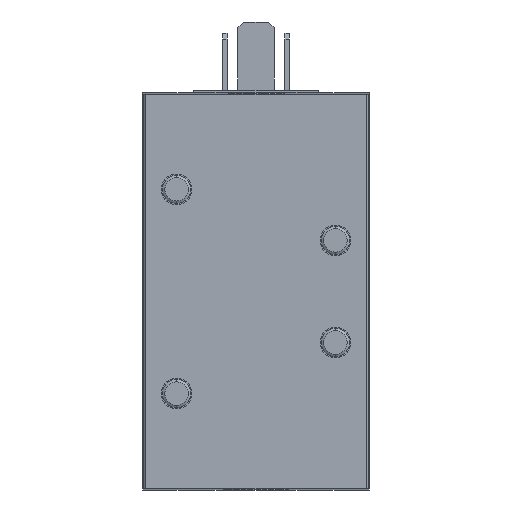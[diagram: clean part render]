
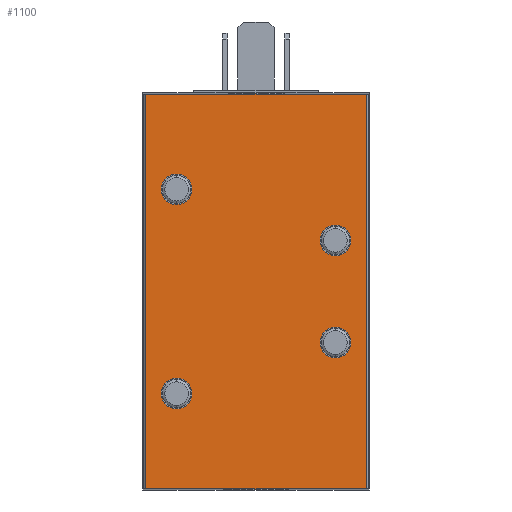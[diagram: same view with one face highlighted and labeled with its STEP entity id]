
A CAD part, front view. The second image highlights one B-rep face of the part: STEP entity #1100.
In plain terms, the highlighted planar face has unit normal (0, -1, 0).
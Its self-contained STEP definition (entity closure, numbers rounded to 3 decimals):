
#340=DIRECTION('',(0.,0.,-1.));
#341=VECTOR('',#340,38.918);
#342=CARTESIAN_POINT('',(34.754,-14.1,19.459));
#343=LINE('',#342,#341);
#344=DIRECTION('',(0.,0.,-1.));
#345=VECTOR('',#344,38.918);
#346=CARTESIAN_POINT('',(-34.754,-14.1,19.459));
#347=LINE('',#346,#345);
#348=DIRECTION('',(1.,0.,0.));
#349=VECTOR('',#348,69.508);
#350=CARTESIAN_POINT('',(-34.754,-14.1,19.459));
#351=LINE('',#350,#349);
#352=CARTESIAN_POINT('',(-18.,-14.1,-14.));
#353=DIRECTION('',(0.,1.,0.));
#354=DIRECTION('',(1.,0.,0.));
#355=AXIS2_PLACEMENT_3D('',#352,#353,#354);
#357=CARTESIAN_POINT('',(-18.,-14.1,-14.));
#358=DIRECTION('',(0.,1.,0.));
#359=DIRECTION('',(-1.,0.,0.));
#360=AXIS2_PLACEMENT_3D('',#357,#358,#359);
#362=CARTESIAN_POINT('',(-9.,-14.1,14.));
#363=DIRECTION('',(0.,1.,0.));
#364=DIRECTION('',(1.,0.,0.));
#365=AXIS2_PLACEMENT_3D('',#362,#363,#364);
#367=CARTESIAN_POINT('',(-9.,-14.1,14.));
#368=DIRECTION('',(0.,1.,0.));
#369=DIRECTION('',(-1.,0.,0.));
#370=AXIS2_PLACEMENT_3D('',#367,#368,#369);
#372=CARTESIAN_POINT('',(18.,-14.1,-14.));
#373=DIRECTION('',(0.,1.,0.));
#374=DIRECTION('',(1.,0.,0.));
#375=AXIS2_PLACEMENT_3D('',#372,#373,#374);
#377=CARTESIAN_POINT('',(18.,-14.1,-14.));
#378=DIRECTION('',(0.,1.,0.));
#379=DIRECTION('',(-1.,0.,0.));
#380=AXIS2_PLACEMENT_3D('',#377,#378,#379);
#382=CARTESIAN_POINT('',(9.,-14.1,14.));
#383=DIRECTION('',(0.,1.,0.));
#384=DIRECTION('',(1.,0.,0.));
#385=AXIS2_PLACEMENT_3D('',#382,#383,#384);
#387=CARTESIAN_POINT('',(9.,-14.1,14.));
#388=DIRECTION('',(0.,1.,0.));
#389=DIRECTION('',(-1.,0.,0.));
#390=AXIS2_PLACEMENT_3D('',#387,#388,#389);
#408=DIRECTION('',(1.,0.,0.));
#409=VECTOR('',#408,69.508);
#410=CARTESIAN_POINT('',(-34.754,-14.1,-19.459));
#411=LINE('',#410,#409);
#580=CARTESIAN_POINT('',(34.754,-14.1,19.459));
#581=CARTESIAN_POINT('',(34.754,-14.1,-19.459));
#582=VERTEX_POINT('',#580);
#583=VERTEX_POINT('',#581);
#584=CARTESIAN_POINT('',(-34.754,-14.1,19.459));
#585=CARTESIAN_POINT('',(-34.754,-14.1,-19.459));
#586=VERTEX_POINT('',#584);
#587=VERTEX_POINT('',#585);
#620=CARTESIAN_POINT('',(-15.3,-14.1,-14.));
#621=CARTESIAN_POINT('',(-20.7,-14.1,-14.));
#622=VERTEX_POINT('',#620);
#623=VERTEX_POINT('',#621);
#624=CARTESIAN_POINT('',(-6.3,-14.1,14.));
#625=CARTESIAN_POINT('',(-11.7,-14.1,14.));
#626=VERTEX_POINT('',#624);
#627=VERTEX_POINT('',#625);
#628=CARTESIAN_POINT('',(20.7,-14.1,-14.));
#629=CARTESIAN_POINT('',(15.3,-14.1,-14.));
#630=VERTEX_POINT('',#628);
#631=VERTEX_POINT('',#629);
#632=CARTESIAN_POINT('',(11.7,-14.1,14.));
#633=CARTESIAN_POINT('',(6.3,-14.1,14.));
#634=VERTEX_POINT('',#632);
#635=VERTEX_POINT('',#633);
#1064=CARTESIAN_POINT('',(-35.,-14.1,19.459));
#1065=DIRECTION('',(0.,-1.,0.));
#1066=DIRECTION('',(0.,0.,-1.));
#1067=AXIS2_PLACEMENT_3D('',#1064,#1065,#1066);
#1068=PLANE('',#1067);
#1069=ORIENTED_EDGE('',*,*,#833,.T.);
#1071=ORIENTED_EDGE('',*,*,#1070,.F.);
#1072=ORIENTED_EDGE('',*,*,#916,.F.);
#1073=ORIENTED_EDGE('',*,*,#1057,.T.);
#1074=EDGE_LOOP('',(#1069,#1071,#1072,#1073));
#1075=FACE_OUTER_BOUND('',#1074,.F.);
#1077=ORIENTED_EDGE('',*,*,#1076,.F.);
#1079=ORIENTED_EDGE('',*,*,#1078,.F.);
#1080=EDGE_LOOP('',(#1077,#1079));
#1081=FACE_BOUND('',#1080,.F.);
#1083=ORIENTED_EDGE('',*,*,#1082,.F.);
#1085=ORIENTED_EDGE('',*,*,#1084,.F.);
#1086=EDGE_LOOP('',(#1083,#1085));
#1087=FACE_BOUND('',#1086,.F.);
#1089=ORIENTED_EDGE('',*,*,#1088,.F.);
#1091=ORIENTED_EDGE('',*,*,#1090,.F.);
#1092=EDGE_LOOP('',(#1089,#1091));
#1093=FACE_BOUND('',#1092,.F.);
#1095=ORIENTED_EDGE('',*,*,#1094,.F.);
#1097=ORIENTED_EDGE('',*,*,#1096,.F.);
#1098=EDGE_LOOP('',(#1095,#1097));
#1099=FACE_BOUND('',#1098,.F.);
#1100=ADVANCED_FACE('',(#1075,#1081,#1087,#1093,#1099),#1068,.T.);
#356=CIRCLE('',#355,2.7);
#361=CIRCLE('',#360,2.7);
#366=CIRCLE('',#365,2.7);
#371=CIRCLE('',#370,2.7);
#376=CIRCLE('',#375,2.7);
#381=CIRCLE('',#380,2.7);
#386=CIRCLE('',#385,2.7);
#391=CIRCLE('',#390,2.7);
#833=EDGE_CURVE('',#582,#583,#343,.T.);
#916=EDGE_CURVE('',#586,#587,#347,.T.);
#1057=EDGE_CURVE('',#586,#582,#351,.T.);
#1070=EDGE_CURVE('',#587,#583,#411,.T.);
#1076=EDGE_CURVE('',#622,#623,#356,.T.);
#1078=EDGE_CURVE('',#623,#622,#361,.T.);
#1082=EDGE_CURVE('',#626,#627,#366,.T.);
#1084=EDGE_CURVE('',#627,#626,#371,.T.);
#1088=EDGE_CURVE('',#630,#631,#376,.T.);
#1090=EDGE_CURVE('',#631,#630,#381,.T.);
#1094=EDGE_CURVE('',#634,#635,#386,.T.);
#1096=EDGE_CURVE('',#635,#634,#391,.T.);
